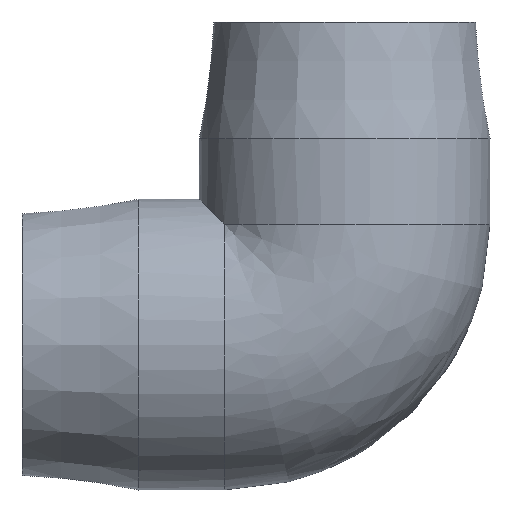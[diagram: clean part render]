
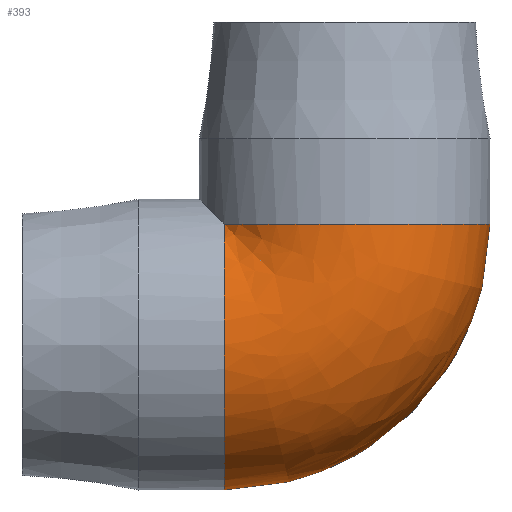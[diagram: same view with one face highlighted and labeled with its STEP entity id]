
A CAD part, front view. The second image highlights one B-rep face of the part: STEP entity #393.
In plain terms, the highlighted free-form (B-spline) face has degree [2, 2] with [9, 3] control points.
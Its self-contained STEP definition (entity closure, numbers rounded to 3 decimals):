
#27=(
BOUNDED_SURFACE()
B_SPLINE_SURFACE(2,2,((#666,#667,#668),(#669,#670,#671),(#672,#673,#674),
(#675,#676,#677),(#678,#679,#680),(#681,#682,#683),(#684,#685,#686),(#687,
#688,#689),(#690,#691,#692)),.UNSPECIFIED.,.F.,.F.,.F.)
B_SPLINE_SURFACE_WITH_KNOTS((3,2,2,2,3),(3,3),(-2.549,-1.274,
0.,1.274,2.549),(0.,1.571),
 .UNSPECIFIED.)
GEOMETRIC_REPRESENTATION_ITEM()
RATIONAL_B_SPLINE_SURFACE(((1.,0.707,1.),(0.804,
0.568,0.804),(1.,0.707,1.),(0.804,
0.568,0.804),(1.,0.707,1.),(0.804,
0.568,0.804),(1.,0.707,1.),(0.804,
0.568,0.804),(1.,0.707,1.)))
REPRESENTATION_ITEM('')
SURFACE()
);
#88=FACE_OUTER_BOUND('',#120,.T.);
#120=EDGE_LOOP('',(#285,#286,#287,#288));
#162=CIRCLE('',#454,41.);
#163=CIRCLE('',#455,41.);
#164=CIRCLE('',#456,41.);
#165=CIRCLE('',#457,41.);
#193=VERTEX_POINT('',#693);
#194=VERTEX_POINT('',#694);
#195=VERTEX_POINT('',#696);
#196=VERTEX_POINT('',#698);
#229=EDGE_CURVE('',#193,#194,#162,.T.);
#230=EDGE_CURVE('',#194,#195,#163,.T.);
#231=EDGE_CURVE('',#195,#196,#164,.T.);
#232=EDGE_CURVE('',#196,#193,#165,.T.);
#285=ORIENTED_EDGE('',*,*,#229,.T.);
#286=ORIENTED_EDGE('',*,*,#230,.T.);
#287=ORIENTED_EDGE('',*,*,#231,.T.);
#288=ORIENTED_EDGE('',*,*,#232,.T.);
#393=ADVANCED_FACE('',(#88),#27,.F.);
#454=AXIS2_PLACEMENT_3D('',#695,#533,#534);
#455=AXIS2_PLACEMENT_3D('',#697,#535,#536);
#456=AXIS2_PLACEMENT_3D('',#699,#537,#538);
#457=AXIS2_PLACEMENT_3D('',#700,#539,#540);
#533=DIRECTION('center_axis',(0.,0.,
-1.));
#534=DIRECTION('ref_axis',(-1.,0.,0.));
#535=DIRECTION('center_axis',(0.,0.,
-1.));
#536=DIRECTION('ref_axis',(-1.,0.,0.));
#537=DIRECTION('center_axis',(1.,0.,0.));
#538=DIRECTION('ref_axis',(0.,0.,-1.));
#539=DIRECTION('center_axis',(1.,0.,0.));
#540=DIRECTION('ref_axis',(0.,0.,-1.));
#666=CARTESIAN_POINT('Ctrl Pts',(-34.,22.913,34.));
#667=CARTESIAN_POINT('Ctrl Pts',(-34.,22.913,34.));
#668=CARTESIAN_POINT('Ctrl Pts',(-34.,22.913,34.));
#669=CARTESIAN_POINT('Ctrl Pts',(-34.,48.077,17.042));
#670=CARTESIAN_POINT('Ctrl Pts',(-17.042,48.077,17.042));
#671=CARTESIAN_POINT('Ctrl Pts',(-17.042,48.077,34.));
#672=CARTESIAN_POINT('Ctrl Pts',(-34.,39.211,-11.979));
#673=CARTESIAN_POINT('Ctrl Pts',(11.979,39.211,-11.979));
#674=CARTESIAN_POINT('Ctrl Pts',(11.979,39.211,34.));
#675=CARTESIAN_POINT('Ctrl Pts',(-34.,30.345,-41.));
#676=CARTESIAN_POINT('Ctrl Pts',(41.,30.345,-41.));
#677=CARTESIAN_POINT('Ctrl Pts',(41.,30.345,34.));
#678=CARTESIAN_POINT('Ctrl Pts',(-34.,0.,-41.));
#679=CARTESIAN_POINT('Ctrl Pts',(41.,0.,-41.));
#680=CARTESIAN_POINT('Ctrl Pts',(41.,0.,34.));
#681=CARTESIAN_POINT('Ctrl Pts',(-34.,-30.345,-41.));
#682=CARTESIAN_POINT('Ctrl Pts',(41.,-30.345,-41.));
#683=CARTESIAN_POINT('Ctrl Pts',(41.,-30.345,34.));
#684=CARTESIAN_POINT('Ctrl Pts',(-34.,-39.211,-11.979));
#685=CARTESIAN_POINT('Ctrl Pts',(11.979,-39.211,-11.979));
#686=CARTESIAN_POINT('Ctrl Pts',(11.979,-39.211,34.));
#687=CARTESIAN_POINT('Ctrl Pts',(-34.,-48.077,17.042));
#688=CARTESIAN_POINT('Ctrl Pts',(-17.042,-48.077,17.042));
#689=CARTESIAN_POINT('Ctrl Pts',(-17.042,-48.077,34.));
#690=CARTESIAN_POINT('Ctrl Pts',(-34.,-22.913,34.));
#691=CARTESIAN_POINT('Ctrl Pts',(-34.,-22.913,34.));
#692=CARTESIAN_POINT('Ctrl Pts',(-34.,-22.913,34.));
#693=CARTESIAN_POINT('',(-34.,22.913,34.));
#694=CARTESIAN_POINT('',(0.,-41.,34.));
#695=CARTESIAN_POINT('Origin',(0.,0.,
34.));
#696=CARTESIAN_POINT('',(-34.,-22.913,34.));
#697=CARTESIAN_POINT('Origin',(0.,0.,
34.));
#698=CARTESIAN_POINT('',(-34.,-41.,0.));
#699=CARTESIAN_POINT('Origin',(-34.,0.,0.));
#700=CARTESIAN_POINT('Origin',(-34.,0.,0.));
